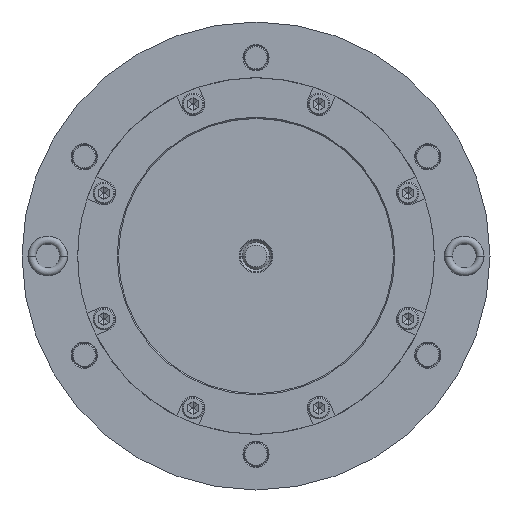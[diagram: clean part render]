
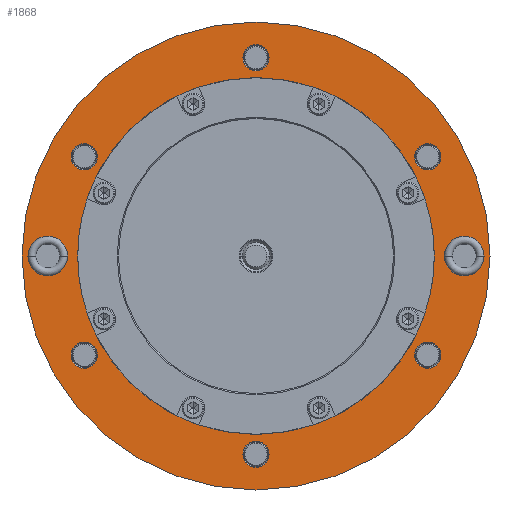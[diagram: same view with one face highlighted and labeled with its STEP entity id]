
A CAD part, front view. The second image highlights one B-rep face of the part: STEP entity #1868.
In plain terms, the highlighted planar face has unit normal (0, -1, 0).
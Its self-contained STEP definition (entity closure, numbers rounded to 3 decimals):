
#106=CARTESIAN_POINT('',(0.,-14.,0.));
#107=DIRECTION('',(0.,-1.,0.));
#108=DIRECTION('',(-1.,0.,0.));
#109=AXIS2_PLACEMENT_3D('',#106,#107,#108);
#119=CARTESIAN_POINT('',(0.,-14.,0.));
#120=DIRECTION('',(0.,1.,0.));
#121=DIRECTION('',(-1.,0.,0.));
#122=AXIS2_PLACEMENT_3D('',#119,#120,#121);
#124=CARTESIAN_POINT('',(0.,-14.,0.));
#125=DIRECTION('',(0.,-1.,0.));
#126=DIRECTION('',(-1.,0.,0.));
#127=AXIS2_PLACEMENT_3D('',#124,#125,#126);
#129=CARTESIAN_POINT('',(0.,-14.,0.));
#130=DIRECTION('',(0.,1.,0.));
#131=DIRECTION('',(-1.,0.,0.));
#132=AXIS2_PLACEMENT_3D('',#129,#130,#131);
#134=CARTESIAN_POINT('',(52.5,-14.,0.));
#135=DIRECTION('',(0.,1.,0.));
#136=DIRECTION('',(-1.,0.,0.));
#137=AXIS2_PLACEMENT_3D('',#134,#135,#136);
#139=CARTESIAN_POINT('',(52.5,-14.,0.));
#140=DIRECTION('',(0.,1.,0.));
#141=DIRECTION('',(1.,0.,0.));
#142=AXIS2_PLACEMENT_3D('',#139,#140,#141);
#144=CARTESIAN_POINT('',(0.,-14.,50.));
#145=DIRECTION('',(0.,1.,0.));
#146=DIRECTION('',(-1.,0.,0.));
#147=AXIS2_PLACEMENT_3D('',#144,#145,#146);
#149=CARTESIAN_POINT('',(0.,-14.,50.));
#150=DIRECTION('',(0.,1.,0.));
#151=DIRECTION('',(1.,0.,0.));
#152=AXIS2_PLACEMENT_3D('',#149,#150,#151);
#154=CARTESIAN_POINT('',(43.301,-14.,25.));
#155=DIRECTION('',(0.,1.,0.));
#156=DIRECTION('',(-1.,0.,0.));
#157=AXIS2_PLACEMENT_3D('',#154,#155,#156);
#159=CARTESIAN_POINT('',(43.301,-14.,25.));
#160=DIRECTION('',(0.,1.,0.));
#161=DIRECTION('',(1.,0.,0.));
#162=AXIS2_PLACEMENT_3D('',#159,#160,#161);
#164=CARTESIAN_POINT('',(43.301,-14.,-25.));
#165=DIRECTION('',(0.,1.,0.));
#166=DIRECTION('',(-1.,0.,0.));
#167=AXIS2_PLACEMENT_3D('',#164,#165,#166);
#169=CARTESIAN_POINT('',(43.301,-14.,-25.));
#170=DIRECTION('',(0.,1.,0.));
#171=DIRECTION('',(1.,0.,0.));
#172=AXIS2_PLACEMENT_3D('',#169,#170,#171);
#174=CARTESIAN_POINT('',(0.,-14.,-50.));
#175=DIRECTION('',(0.,1.,0.));
#176=DIRECTION('',(-1.,0.,0.));
#177=AXIS2_PLACEMENT_3D('',#174,#175,#176);
#179=CARTESIAN_POINT('',(0.,-14.,-50.));
#180=DIRECTION('',(0.,1.,0.));
#181=DIRECTION('',(1.,0.,0.));
#182=AXIS2_PLACEMENT_3D('',#179,#180,#181);
#184=CARTESIAN_POINT('',(-43.301,-14.,-25.));
#185=DIRECTION('',(0.,1.,0.));
#186=DIRECTION('',(-1.,0.,0.));
#187=AXIS2_PLACEMENT_3D('',#184,#185,#186);
#189=CARTESIAN_POINT('',(-43.301,-14.,-25.));
#190=DIRECTION('',(0.,1.,0.));
#191=DIRECTION('',(1.,0.,0.));
#192=AXIS2_PLACEMENT_3D('',#189,#190,#191);
#194=CARTESIAN_POINT('',(-43.301,-14.,25.));
#195=DIRECTION('',(0.,1.,0.));
#196=DIRECTION('',(-1.,0.,0.));
#197=AXIS2_PLACEMENT_3D('',#194,#195,#196);
#199=CARTESIAN_POINT('',(-43.301,-14.,25.));
#200=DIRECTION('',(0.,1.,0.));
#201=DIRECTION('',(1.,0.,0.));
#202=AXIS2_PLACEMENT_3D('',#199,#200,#201);
#204=CARTESIAN_POINT('',(-52.5,-14.,0.));
#205=DIRECTION('',(0.,1.,0.));
#206=DIRECTION('',(-1.,0.,0.));
#207=AXIS2_PLACEMENT_3D('',#204,#205,#206);
#209=CARTESIAN_POINT('',(-52.5,-14.,0.));
#210=DIRECTION('',(0.,1.,0.));
#211=DIRECTION('',(1.,0.,0.));
#212=AXIS2_PLACEMENT_3D('',#209,#210,#211);
#1339=CARTESIAN_POINT('',(-45.,-14.,0.));
#1341=VERTEX_POINT('',#1339);
#1342=CARTESIAN_POINT('',(-59.,-14.,0.));
#1344=VERTEX_POINT('',#1342);
#1347=CARTESIAN_POINT('',(45.,-14.,0.));
#1349=VERTEX_POINT('',#1347);
#1350=CARTESIAN_POINT('',(59.,-14.,0.));
#1352=VERTEX_POINT('',#1350);
#1382=CARTESIAN_POINT('',(47.5,-14.,0.));
#1383=CARTESIAN_POINT('',(57.5,-14.,0.));
#1384=VERTEX_POINT('',#1382);
#1385=VERTEX_POINT('',#1383);
#1524=CARTESIAN_POINT('',(-3.3,-14.,50.));
#1525=CARTESIAN_POINT('',(3.3,-14.,50.));
#1526=VERTEX_POINT('',#1524);
#1527=VERTEX_POINT('',#1525);
#1532=CARTESIAN_POINT('',(40.001,-14.,25.));
#1533=CARTESIAN_POINT('',(46.601,-14.,25.));
#1534=VERTEX_POINT('',#1532);
#1535=VERTEX_POINT('',#1533);
#1540=CARTESIAN_POINT('',(40.001,-14.,-25.));
#1541=CARTESIAN_POINT('',(46.601,-14.,-25.));
#1542=VERTEX_POINT('',#1540);
#1543=VERTEX_POINT('',#1541);
#1548=CARTESIAN_POINT('',(-3.3,-14.,-50.));
#1549=CARTESIAN_POINT('',(3.3,-14.,-50.));
#1550=VERTEX_POINT('',#1548);
#1551=VERTEX_POINT('',#1549);
#1556=CARTESIAN_POINT('',(-46.601,-14.,-25.));
#1557=CARTESIAN_POINT('',(-40.001,-14.,-25.));
#1558=VERTEX_POINT('',#1556);
#1559=VERTEX_POINT('',#1557);
#1564=CARTESIAN_POINT('',(-46.601,-14.,25.));
#1565=CARTESIAN_POINT('',(-40.001,-14.,25.));
#1566=VERTEX_POINT('',#1564);
#1567=VERTEX_POINT('',#1565);
#1674=CARTESIAN_POINT('',(-57.5,-14.,0.));
#1675=VERTEX_POINT('',#1674);
#1676=CARTESIAN_POINT('',(-47.5,-14.,0.));
#1677=VERTEX_POINT('',#1676);
#1805=CARTESIAN_POINT('',(0.,-14.,0.));
#1806=DIRECTION('',(0.,-1.,0.));
#1807=DIRECTION('',(-1.,0.,0.));
#1808=AXIS2_PLACEMENT_3D('',#1805,#1806,#1807);
#1809=PLANE('',#1808);
#1810=ORIENTED_EDGE('',*,*,#1800,.T.);
#1811=ORIENTED_EDGE('',*,*,#1784,.F.);
#1812=EDGE_LOOP('',(#1810,#1811));
#1813=FACE_OUTER_BOUND('',#1812,.F.);
#1815=ORIENTED_EDGE('',*,*,#1814,.T.);
#1817=ORIENTED_EDGE('',*,*,#1816,.F.);
#1818=EDGE_LOOP('',(#1815,#1817));
#1819=FACE_BOUND('',#1818,.F.);
#1821=ORIENTED_EDGE('',*,*,#1820,.F.);
#1823=ORIENTED_EDGE('',*,*,#1822,.F.);
#1824=EDGE_LOOP('',(#1821,#1823));
#1825=FACE_BOUND('',#1824,.F.);
#1827=ORIENTED_EDGE('',*,*,#1826,.F.);
#1829=ORIENTED_EDGE('',*,*,#1828,.F.);
#1830=EDGE_LOOP('',(#1827,#1829));
#1831=FACE_BOUND('',#1830,.F.);
#1833=ORIENTED_EDGE('',*,*,#1832,.F.);
#1835=ORIENTED_EDGE('',*,*,#1834,.F.);
#1836=EDGE_LOOP('',(#1833,#1835));
#1837=FACE_BOUND('',#1836,.F.);
#1839=ORIENTED_EDGE('',*,*,#1838,.F.);
#1841=ORIENTED_EDGE('',*,*,#1840,.F.);
#1842=EDGE_LOOP('',(#1839,#1841));
#1843=FACE_BOUND('',#1842,.F.);
#1845=ORIENTED_EDGE('',*,*,#1844,.F.);
#1847=ORIENTED_EDGE('',*,*,#1846,.F.);
#1848=EDGE_LOOP('',(#1845,#1847));
#1849=FACE_BOUND('',#1848,.F.);
#1851=ORIENTED_EDGE('',*,*,#1850,.F.);
#1853=ORIENTED_EDGE('',*,*,#1852,.F.);
#1854=EDGE_LOOP('',(#1851,#1853));
#1855=FACE_BOUND('',#1854,.F.);
#1857=ORIENTED_EDGE('',*,*,#1856,.F.);
#1859=ORIENTED_EDGE('',*,*,#1858,.F.);
#1860=EDGE_LOOP('',(#1857,#1859));
#1861=FACE_BOUND('',#1860,.F.);
#1863=ORIENTED_EDGE('',*,*,#1862,.F.);
#1865=ORIENTED_EDGE('',*,*,#1864,.F.);
#1866=EDGE_LOOP('',(#1863,#1865));
#1867=FACE_BOUND('',#1866,.F.);
#1868=ADVANCED_FACE('',(#1813,#1819,#1825,#1831,#1837,#1843,#1849,#1855,#1861,
#1867),#1809,.T.);
#110=CIRCLE('',#109,59.);
#123=CIRCLE('',#122,59.);
#128=CIRCLE('',#127,45.);
#133=CIRCLE('',#132,45.);
#138=CIRCLE('',#137,5.);
#143=CIRCLE('',#142,5.);
#148=CIRCLE('',#147,3.3);
#153=CIRCLE('',#152,3.3);
#158=CIRCLE('',#157,3.3);
#163=CIRCLE('',#162,3.3);
#168=CIRCLE('',#167,3.3);
#173=CIRCLE('',#172,3.3);
#178=CIRCLE('',#177,3.3);
#183=CIRCLE('',#182,3.3);
#188=CIRCLE('',#187,3.3);
#193=CIRCLE('',#192,3.3);
#198=CIRCLE('',#197,3.3);
#203=CIRCLE('',#202,3.3);
#208=CIRCLE('',#207,5.);
#213=CIRCLE('',#212,5.);
#1784=EDGE_CURVE('',#1344,#1352,#110,.T.);
#1800=EDGE_CURVE('',#1344,#1352,#123,.T.);
#1814=EDGE_CURVE('',#1341,#1349,#128,.T.);
#1816=EDGE_CURVE('',#1341,#1349,#133,.T.);
#1820=EDGE_CURVE('',#1384,#1385,#138,.T.);
#1822=EDGE_CURVE('',#1385,#1384,#143,.T.);
#1826=EDGE_CURVE('',#1526,#1527,#148,.T.);
#1828=EDGE_CURVE('',#1527,#1526,#153,.T.);
#1832=EDGE_CURVE('',#1534,#1535,#158,.T.);
#1834=EDGE_CURVE('',#1535,#1534,#163,.T.);
#1838=EDGE_CURVE('',#1542,#1543,#168,.T.);
#1840=EDGE_CURVE('',#1543,#1542,#173,.T.);
#1844=EDGE_CURVE('',#1550,#1551,#178,.T.);
#1846=EDGE_CURVE('',#1551,#1550,#183,.T.);
#1850=EDGE_CURVE('',#1558,#1559,#188,.T.);
#1852=EDGE_CURVE('',#1559,#1558,#193,.T.);
#1856=EDGE_CURVE('',#1566,#1567,#198,.T.);
#1858=EDGE_CURVE('',#1567,#1566,#203,.T.);
#1862=EDGE_CURVE('',#1675,#1677,#208,.T.);
#1864=EDGE_CURVE('',#1677,#1675,#213,.T.);
